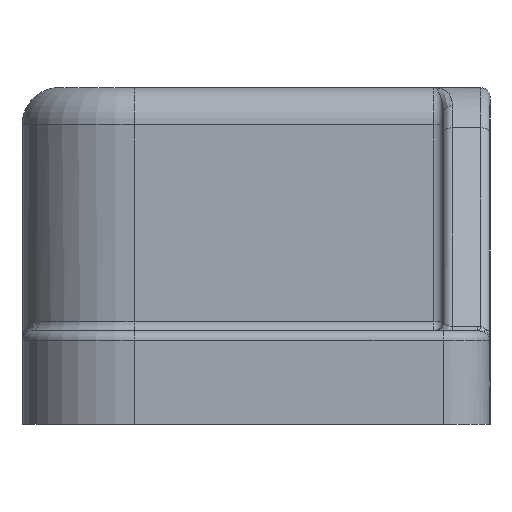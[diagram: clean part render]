
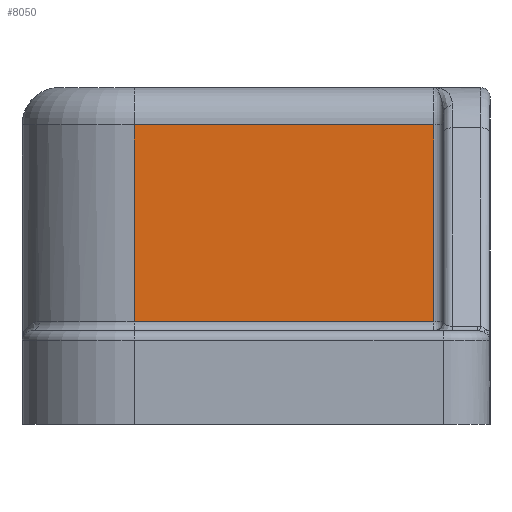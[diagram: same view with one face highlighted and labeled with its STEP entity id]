
A CAD part, left-side view. The second image highlights one B-rep face of the part: STEP entity #8050.
In plain terms, the highlighted planar face has unit normal (-1, 0, 0).
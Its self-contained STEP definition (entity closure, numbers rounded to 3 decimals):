
#143 = CARTESIAN_POINT ( 'NONE',  ( 10., 19., 16. ) ) ;
#2378 = EDGE_LOOP ( 'NONE', ( #24790, #26647, #11833, #26736 ) ) ;
#2906 = VECTOR ( 'NONE', #3972, 1000. ) ;
#3972 = DIRECTION ( 'NONE',  ( 0., 0., 1. ) ) ;
#4530 = CARTESIAN_POINT ( 'NONE',  ( 10., 3., 16. ) ) ;
#5128 = CARTESIAN_POINT ( 'NONE',  ( 10., 3., 5.5 ) ) ;
#5287 = AXIS2_PLACEMENT_3D ( 'NONE', #20672, #7994, #22780 ) ;
#5857 = PLANE ( 'NONE',  #5287 ) ;
#6779 = EDGE_CURVE ( 'NONE', #7282, #10173, #10176, .T. ) ;
#7212 = LINE ( 'NONE', #14499, #2906 ) ;
#7282 = VERTEX_POINT ( 'NONE', #9604 ) ;
#7994 = DIRECTION ( 'NONE',  ( 1., 0., 0. ) ) ;
#8050 = ADVANCED_FACE ( 'NONE', ( #26309 ), #5857, .F. ) ;
#9604 = CARTESIAN_POINT ( 'NONE',  ( 10., 19., 5.5 ) ) ;
#9760 = CARTESIAN_POINT ( 'NONE',  ( 10., 19., 16. ) ) ;
#10173 = VERTEX_POINT ( 'NONE', #20793 ) ;
#10176 = LINE ( 'NONE', #5128, #26366 ) ;
#11127 = LINE ( 'NONE', #143, #26649 ) ;
#11833 = ORIENTED_EDGE ( 'NONE', *, *, #23112, .T. ) ;
#12333 = CARTESIAN_POINT ( 'NONE',  ( 10., 3., -29.682 ) ) ;
#12846 = DIRECTION ( 'NONE',  ( 0., 1., 0. ) ) ;
#14425 = DIRECTION ( 'NONE',  ( 0., 0., 1. ) ) ;
#14499 = CARTESIAN_POINT ( 'NONE',  ( 10., 19., -29.682 ) ) ;
#19240 = VERTEX_POINT ( 'NONE', #4530 ) ;
#20151 = VECTOR ( 'NONE', #14425, 1000. ) ;
#20672 = CARTESIAN_POINT ( 'NONE',  ( 10., 19., -29.682 ) ) ;
#20793 = CARTESIAN_POINT ( 'NONE',  ( 10., 3., 5.5 ) ) ;
#22124 = DIRECTION ( 'NONE',  ( 0., -1., 0. ) ) ;
#22611 = VERTEX_POINT ( 'NONE', #9760 ) ;
#22780 = DIRECTION ( 'NONE',  ( 0., 0., -1. ) ) ;
#23112 = EDGE_CURVE ( 'NONE', #10173, #19240, #25750, .T. ) ;
#23597 = EDGE_CURVE ( 'NONE', #7282, #22611, #7212, .T. ) ;
#24790 = ORIENTED_EDGE ( 'NONE', *, *, #23597, .F. ) ;
#25750 = LINE ( 'NONE', #12333, #20151 ) ;
#26309 = FACE_OUTER_BOUND ( 'NONE', #2378, .T. ) ;
#26366 = VECTOR ( 'NONE', #22124, 1000. ) ;
#26396 = EDGE_CURVE ( 'NONE', #19240, #22611, #11127, .T. ) ;
#26647 = ORIENTED_EDGE ( 'NONE', *, *, #6779, .T. ) ;
#26649 = VECTOR ( 'NONE', #12846, 1000. ) ;
#26736 = ORIENTED_EDGE ( 'NONE', *, *, #26396, .T. ) ;
